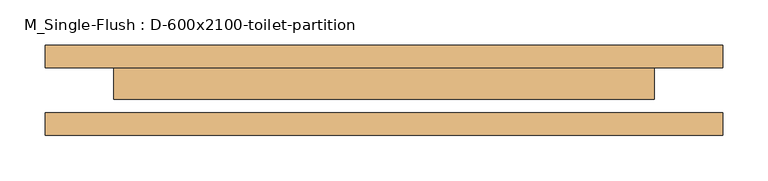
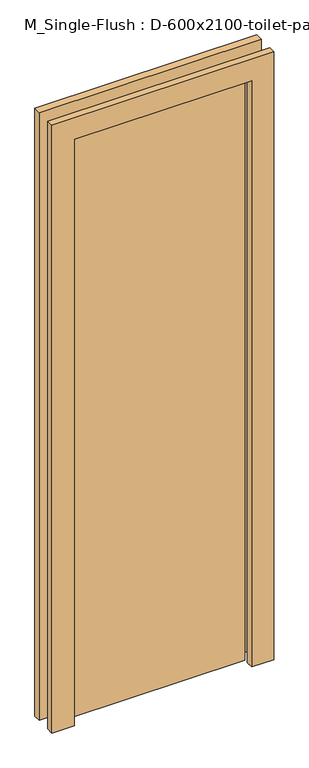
"""IFC4 building model written with IfcOpenShell, lengths in millimetres: door geometry, M_Single-Flush : D-600x2100-toilet-partition."""

from ifc_helpers import new_model, si_unit, frame, origin, origin_with_axes, place, context, project, spatial, polyline, outline, extrude, source, transform, mapped, element, save


def m_single_flush_d_600x2100_toilet_partition_8216d307(model_context):
    return source(origin(), model_context, "Body", "SweptSolid", [
        extrude(outline(polyline([(2176.0, -376.0), (0.0, -376.0), (0.0, -300.0), (2100.0, -300.0), (2100.0, 300.0), (0.0, 300.0), (0.0, 376.0), (2176.0, 376.0), (2176.0, -376.0)])), frame((0.0, 25.0, 0.0), z_axis=(0.0, 1.0, 0.0), x_axis=(0.0, 0.0, 1.0)), (0.0, 0.0, 1.0), 25.0),
        extrude(outline(polyline([(2176.0, 376.0), (2176.0, -376.0), (0.0, -376.0), (0.0, -300.0), (2100.0, -300.0), (2100.0, 300.0), (0.0, 300.0), (0.0, 376.0), (2176.0, 376.0)])), frame((0.0, -50.0, 0.0), z_axis=(0.0, 1.0, 0.0), x_axis=(0.0, 0.0, 1.0)), (0.0, 0.0, 1.0), 25.0),
        extrude(outline(polyline([(300.0, -10.0), (-300.0, -10.0), (-300.0, 25.0), (300.0, 25.0), (300.0, -10.0)])), origin_with_axes(), (0.0, 0.0, 1.0), 2100.0),
    ])


if __name__ == "__main__":
    model = new_model("IFC4")
    model_context = context("Model", 3, world=origin())
    ifc_project = project(units=[si_unit("LENGTHUNIT", "METRE", prefix="MILLI")], contexts=[model_context])
    site = spatial("IfcSite", under=ifc_project)
    building = spatial("IfcBuilding", under=site)
    placement = place(None, origin())
    m_single_flush_d_600x2100_toilet_partition_shape = m_single_flush_d_600x2100_toilet_partition_8216d307(model_context)
    element("IfcDoor", 1, ObjectType="M_Single-Flush : D-600x2100-toilet-partition", at=placement, inside=building, context=model_context, shape_type="MappedRepresentation", body=[
        mapped(m_single_flush_d_600x2100_toilet_partition_shape, transform((0.0, 0.0, 0.0), x_axis=(1.0, 0.0, 0.0), y_axis=(0.0, 1.0, 0.0), z_axis=(0.0, 0.0, 1.0))),
    ])
    save(model, "model.ifc")
